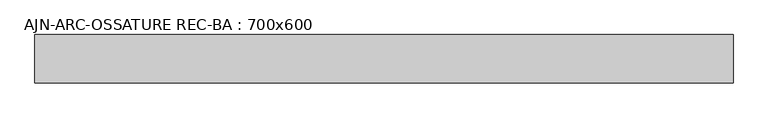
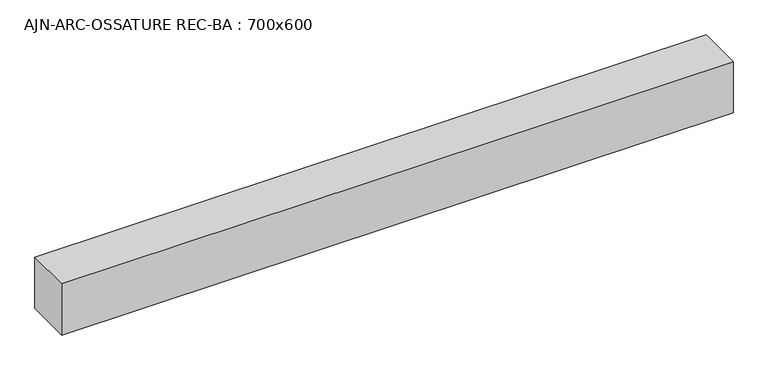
"""IFC4 building model written with IfcOpenShell, lengths in millimetres: beam geometry, AJN-ARC-OSSATURE REC-BA : 700x600."""

from ifc_helpers import new_model, si_unit, frame, origin, place, context, project, spatial, polyline, outline, extrude, source, transform, mapped, element, save


def ajn_arc_ossature_rec_ba_700x600_dd06e79c(model_context):
    return source(origin(), model_context, "Body", "SweptSolid", [
        extrude(outline(polyline([(4187.3, 300.0), (4187.3, -300.0), (-4500.0, -300.0), (-4500.0, 300.0), (4187.3, 300.0)])), frame((0.0, 0.0, -350.0), z_axis=(0.0, 0.0, 1.0), x_axis=(1.0, 0.0, 0.0)), (0.0, 0.0, 1.0), 700.0),
    ])


if __name__ == "__main__":
    model = new_model("IFC4")
    model_context = context("Model", 3, world=origin())
    ifc_project = project(units=[si_unit("LENGTHUNIT", "METRE", prefix="MILLI")], contexts=[model_context])
    site = spatial("IfcSite", under=ifc_project)
    building = spatial("IfcBuilding", under=site)
    placement = place(None, origin())
    ajn_arc_ossature_rec_ba_700x600_shape = ajn_arc_ossature_rec_ba_700x600_dd06e79c(model_context)
    element("IfcBeam", 1, ObjectType="AJN-ARC-OSSATURE REC-BA : 700x600", at=placement, inside=building, context=model_context, shape_type="MappedRepresentation", body=[
        mapped(ajn_arc_ossature_rec_ba_700x600_shape, transform((0.0, 0.0, 0.0), x_axis=(1.0, 0.0, 0.0), y_axis=(0.0, 1.0, 0.0), z_axis=(0.0, 0.0, 1.0))),
    ])
    save(model, "model.ifc")
